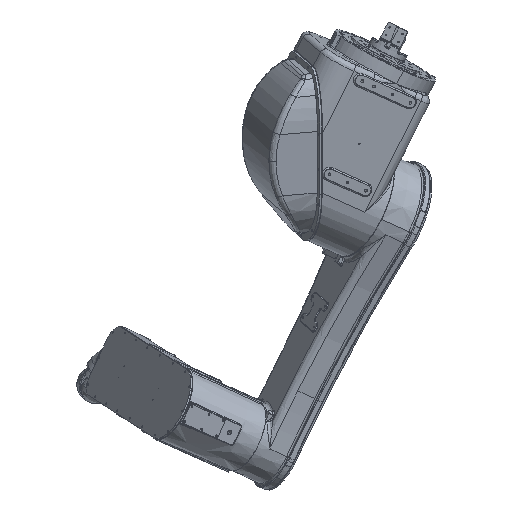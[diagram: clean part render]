
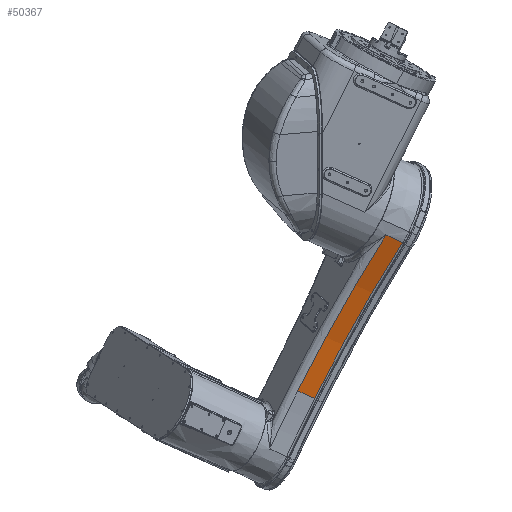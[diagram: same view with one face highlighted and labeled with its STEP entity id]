
A CAD part, top view. The second image highlights one B-rep face of the part: STEP entity #50367.
In plain terms, the highlighted conical face has half-angle 1 degrees and reference radius 2749.57 mm.
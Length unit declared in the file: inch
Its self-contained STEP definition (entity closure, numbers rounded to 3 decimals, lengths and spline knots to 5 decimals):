
#6287 = FACE_OUTER_BOUND ( 'NONE', #140844, .T. ) ;
#9257 = ORIENTED_EDGE ( 'NONE', *, *, #138288, .T. ) ;
#9975 = VERTEX_POINT ( 'NONE', #101638 ) ;
#10583 = CIRCLE ( 'NONE', #15612, 108.20375 ) ;
#11621 = EDGE_CURVE ( 'NONE', #9975, #128507, #126829, .T. ) ;
#15612 = AXIS2_PLACEMENT_3D ( 'NONE', #98705, #26980, #147087 ) ;
#16337 = ORIENTED_EDGE ( 'NONE', *, *, #11621, .T. ) ;
#26980 = DIRECTION ( 'NONE',  ( 0., 0., 1. ) ) ;
#28455 = EDGE_CURVE ( 'NONE', #128507, #68386, #122823, .T. ) ;
#28789 = ORIENTED_EDGE ( 'NONE', *, *, #107734, .T. ) ;
#35603 = CARTESIAN_POINT ( 'NONE',  ( -7.38077, 1.72091, -8.26772 ) ) ;
#37986 = ORIENTED_EDGE ( 'NONE', *, *, #28455, .T. ) ;
#48050 = LINE ( 'NONE', #35603, #53368 ) ;
#50367 = ADVANCED_FACE ( 'NONE', ( #6287 ), #63438, .T. ) ;
#51289 = AXIS2_PLACEMENT_3D ( 'NONE', #58225, #116747, #115978 ) ;
#53368 = VECTOR ( 'NONE', #131538, 39.37008 ) ;
#58225 = CARTESIAN_POINT ( 'NONE',  ( -112.82034, 26.30536, -9.23479 ) ) ;
#63438 = CONICAL_SURFACE ( 'NONE', #51289, 108.25084, 0.017 ) ;
#68386 = VERTEX_POINT ( 'NONE', #91340 ) ;
#77915 = AXIS2_PLACEMENT_3D ( 'NONE', #84787, #125834, #114178 ) ;
#84787 = CARTESIAN_POINT ( 'NONE',  ( -112.82034, 26.30536, -9.23479 ) ) ;
#91340 = CARTESIAN_POINT ( 'NONE',  ( -7.39721, 1.72474, -9.23479 ) ) ;
#98705 = CARTESIAN_POINT ( 'NONE',  ( -112.82034, 26.30536, -11.93257 ) ) ;
#101638 = CARTESIAN_POINT ( 'NONE',  ( -4.61659, 26.30536, -11.93257 ) ) ;
#103434 = CARTESIAN_POINT ( 'NONE',  ( -4.5695, 26.30536, -9.23479 ) ) ;
#103581 = CARTESIAN_POINT ( 'NONE',  ( -4.5695, 26.30536, -9.23479 ) ) ;
#107734 = EDGE_CURVE ( 'NONE', #125651, #9975, #10583, .T. ) ;
#114178 = DIRECTION ( 'NONE',  ( -1., 0., 0. ) ) ;
#115978 = DIRECTION ( 'NONE',  ( 1., 0., 0. ) ) ;
#116747 = DIRECTION ( 'NONE',  ( 0., 0., 1. ) ) ;
#117552 = CARTESIAN_POINT ( 'NONE',  ( -7.44307, 1.73544, -11.93257 ) ) ;
#122823 = CIRCLE ( 'NONE', #77915, 108.25084 ) ;
#125651 = VERTEX_POINT ( 'NONE', #117552 ) ;
#125834 = DIRECTION ( 'NONE',  ( 0., 0., -1. ) ) ;
#126829 = LINE ( 'NONE', #103434, #140537 ) ;
#128507 = VERTEX_POINT ( 'NONE', #103581 ) ;
#131538 = DIRECTION ( 'NONE',  ( -0.017, 0.004, -1. ) ) ;
#138288 = EDGE_CURVE ( 'NONE', #68386, #125651, #48050, .T. ) ;
#140105 = DIRECTION ( 'NONE',  ( 0.017, 0., 1. ) ) ;
#140537 = VECTOR ( 'NONE', #140105, 39.37008 ) ;
#140844 = EDGE_LOOP ( 'NONE', ( #28789, #16337, #37986, #9257 ) ) ;
#147087 = DIRECTION ( 'NONE',  ( 1., 0., 0. ) ) ;
